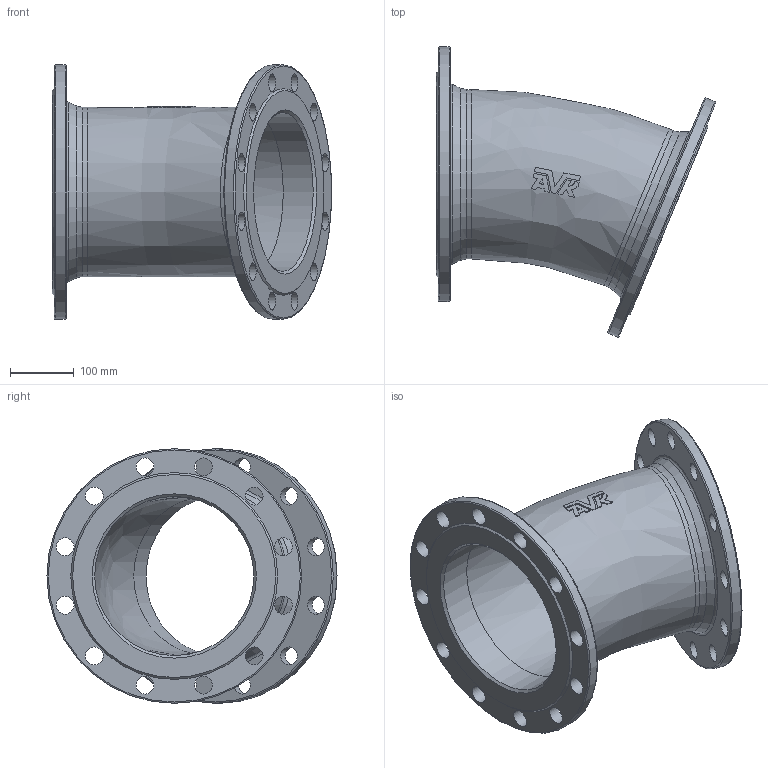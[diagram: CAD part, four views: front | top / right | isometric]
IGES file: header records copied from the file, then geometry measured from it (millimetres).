
Start section: SolidWorks IGES file using analytic representation for surfaces
Global section: file name: \\avksan2\techshare\PBM outline export from Enovia\O_712_0210_DN250_1X_REV01.igs; native system: SolidWorks 2022; preprocessor: SolidWorks 2022; author: pbm; date: 240815.141143; units: millimetre
Bounding box: 438.67 x 455.72 x 400 mm (x, y, z)
Surface area: 907453.7 mm2 (no closed solid volume)
Topology: 0 solids, 0 shells, 93 faces, 451 edges, 405 vertices
Faces by surface type: revolution 52, bspline 41
